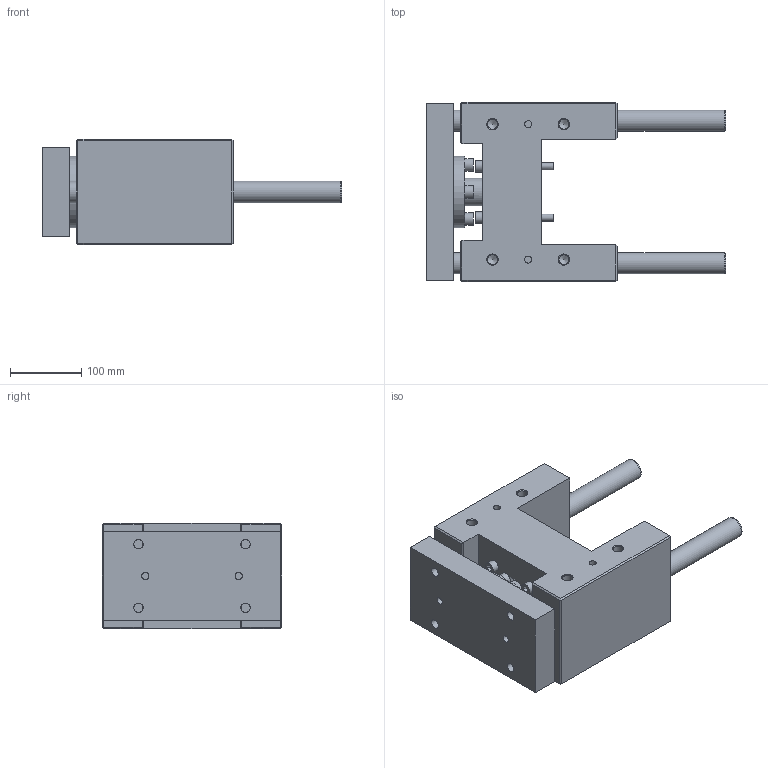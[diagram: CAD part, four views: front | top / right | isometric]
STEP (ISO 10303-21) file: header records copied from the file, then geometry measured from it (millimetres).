
FILE_DESCRIPTION( ( 'STEP AP214' ), '1' );
FILE_NAME( 'U:/Etudes/Top Solid/BIBLIO 3D AVM/TOP/PNEUMATIQUE/GUIDAGES/Type 32 (en H)/R_Renforcée/328R2230.step', '2005-05-27T09:14:13', ( ' ' ), ( ' ' ), 'XStep 1.0', ' ', ' ' );
FILE_SCHEMA( ( 'automotive_design' ) );
Length unit declared in the file: metre
Products named in the file (2): 1; 2
Bounding box: 420 x 252 x 148 mm (x, y, z)
Volume: 6532722.1 mm3; surface area: 534169.4 mm2
Topology: 2 solids, 7 shells, 239 faces, 527 edges, 341 vertices
Faces by surface type: plane 149, cylinder 69, cone 21
Full cylindrical faces by diameter (mm): 10 x12, 10.106 x4, 11 x4, 12 x8, 13 x8, 13.835 x8, 16 x4, 18 x4, 18.376 x2, 20 x4, 30 x4, 39 x1, 42 x1, 45 x1, 57 x1, 60 x1, 65 x1, 100 x1
Entity records: 7933 total; most frequent: CARTESIAN_POINT 1201, DIRECTION 1000, ORIENTED_EDGE 786, EDGE_CURVE 393, EDGE_LOOP 392, AXIS2_PLACEMENT_3D 374, FACE_OUTER_BOUND 308, VERTEX_POINT 303
